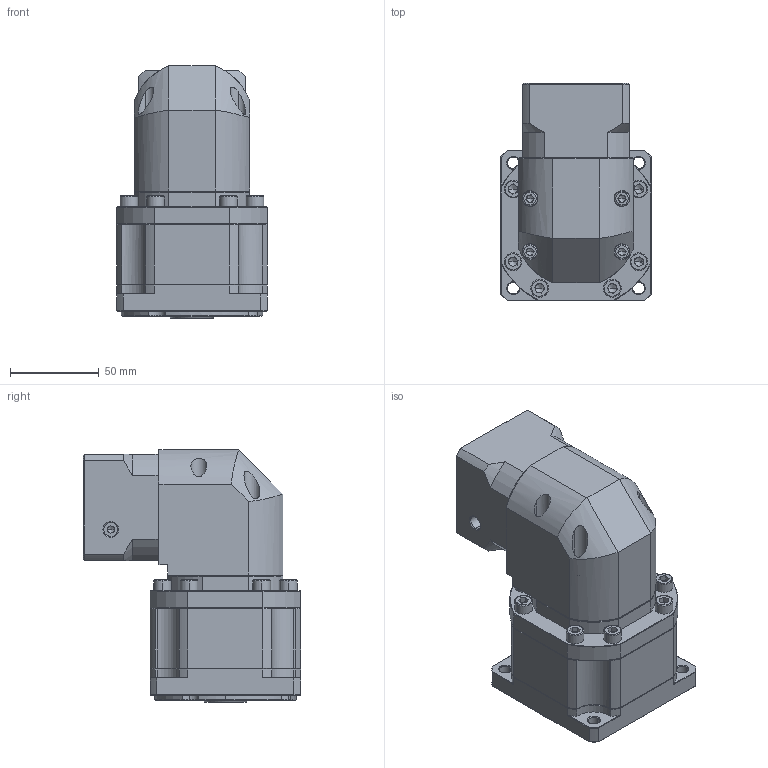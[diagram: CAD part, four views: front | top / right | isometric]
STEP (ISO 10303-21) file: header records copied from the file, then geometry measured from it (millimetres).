
FILE_DESCRIPTION (( 'STEP AP214' ), '1' );
FILE_NAME ('ZBR090-K15-L2-P2-8-30-46-M4.step', '2023-08-19T04:02:01', ( '' ), ( '' ), 'SwSTEP 2.0', 'SolidWorks 2016', '' );
FILE_SCHEMA (( 'AUTOMOTIVE_DESIGN' ));
Length unit declared in the file: millimetre
Products named in the file (1): ZBR090-K15-L2-P2-8-30-46-M4
Bounding box: 85 x 122.7 x 142.5 mm (x, y, z)
Volume: 789726.8 mm3; surface area: 99647.2 mm2
Topology: 5 solids, 5 shells, 2432 faces, 6495 edges, 4169 vertices
Faces by surface type: plane 1169, bspline 480, cylinder 402, cone 361, torus 20
Entity records: 141136 total; most frequent: CARTESIAN_POINT 57344, ORIENTED_EDGE 12918, DIRECTION 10185, EDGE_CURVE 6459, VERTEX_POINT 4169, VECTOR 3969, LINE 3969, AXIS2_PLACEMENT_3D 3108
